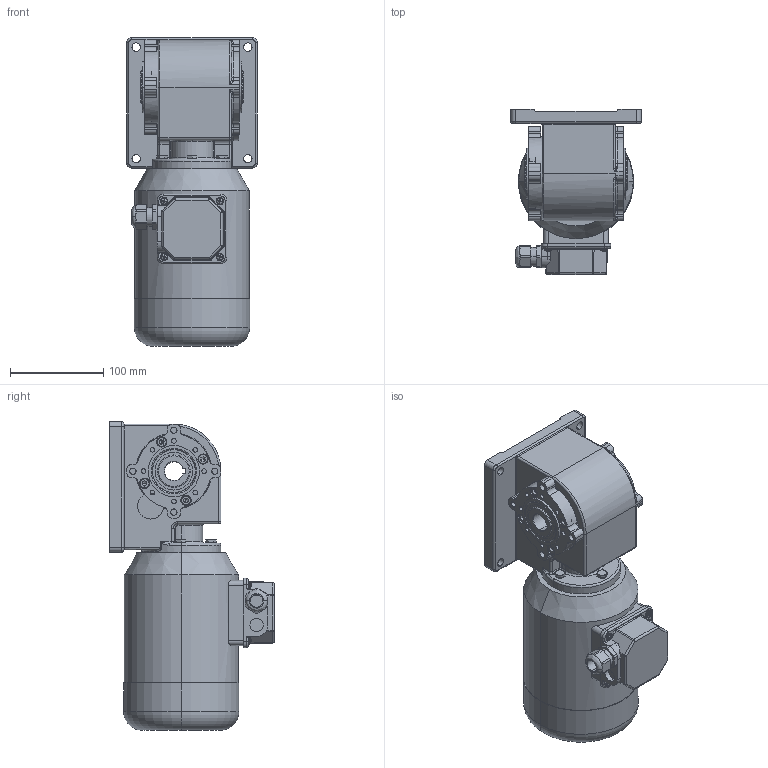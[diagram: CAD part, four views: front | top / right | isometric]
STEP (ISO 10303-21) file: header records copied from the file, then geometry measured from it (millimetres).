
FILE_DESCRIPTION (( 'STEP AP214' ), '1' );
FILE_NAME ('SN13H_180W_Drehstrom-Motor_A.STEP', '2022-03-15T15:36:04', ( '' ), ( '' ), 'SwSTEP 2.0', 'SolidWorks 2019', '' );
FILE_SCHEMA (( 'AUTOMOTIVE_DESIGN' ));
Length unit declared in the file: millimetre
Products named in the file (13): 13FH-F-001_3D-Export; hex screw gradeab_iso_ISO 4017 - M6 x 20-C; 03-M-269 I 180W_1400Upm; SN13H_3D_Export; 13H-W-003_3D-Export; Kupferscheibe Ø6x10x1 DIN7603 A; NBR_WDR_30x47x7; socket set screw flat point_iso_ISO 4026 - M6 x 30-C; K_28x9.0; SN13H_180W_Drehstrom-Motor_A; socket head cap screw_iso_ISO 4762 M6 x 16 - 16C; 13H-D-001_3D_Export; 13-G-004_3D-Export
Assembly tree (27 placements, depth 3):
  SN13H_180W_Drehstrom-Motor_A
    SN13H_3D_Export
      13-G-004_3D-Export
      13H-D-001_3D_Export
      13FH-F-001_3D-Export
      K_28x9.0
      13H-W-003_3D-Export
      NBR_WDR_30x47x7  x2
      Kupferscheibe Ø6x10x1 DIN7603 A  x4
      hex screw gradeab_iso_ISO 4017 - M6 x 20-C  x3
      socket set screw flat point_iso_ISO 4026 - M6 x 30-C
      socket head cap screw_iso_ISO 4762 M6 x 16 - 16C  x10
    03-M-269 I 180W_1400Upm
Bounding box: 140 x 177 x 331.5 mm (x, y, z)
Volume: 3598201.4 mm3; surface area: 328043.2 mm2
Topology: 28 solids, 28 shells, 1332 faces, 3248 edges, 1980 vertices
Faces by surface type: plane 461, cylinder 433, cone 210, bspline 119, torus 104, sphere 5
Entity records: 34314 total; most frequent: CARTESIAN_POINT 9759, ORIENTED_EDGE 4880, DIRECTION 4749, EDGE_CURVE 2440, AXIS2_PLACEMENT_3D 1859, VERTEX_POINT 1553, EDGE_LOOP 1125, LINE 1031
